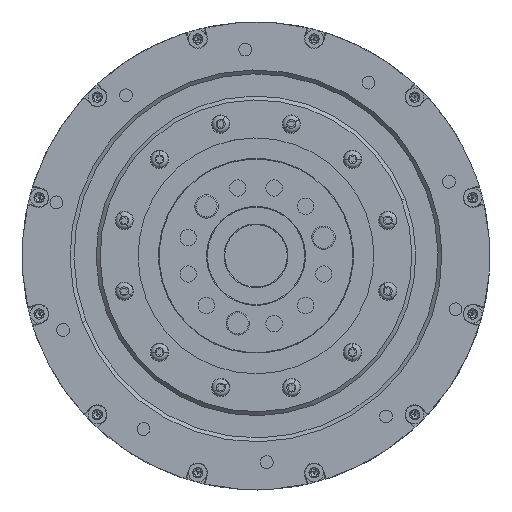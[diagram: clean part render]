
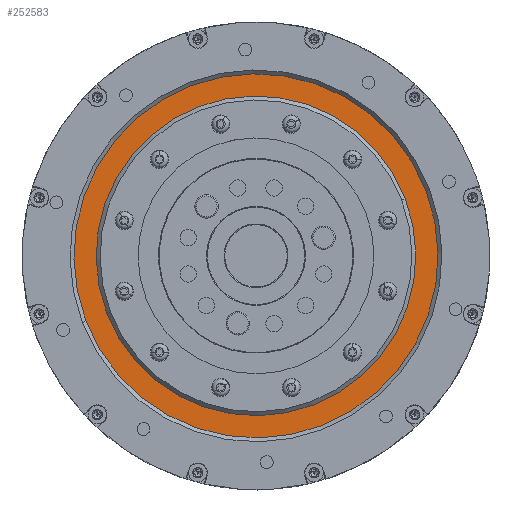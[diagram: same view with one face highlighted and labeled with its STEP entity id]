
A CAD part, top view. The second image highlights one B-rep face of the part: STEP entity #252583.
In plain terms, the highlighted planar face has unit normal (0, 0, 1).
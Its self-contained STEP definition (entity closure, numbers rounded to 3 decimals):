
#37715=CARTESIAN_POINT('',(0.,0.,24.));
#37716=DIRECTION('',(0.,0.,-1.));
#37717=DIRECTION('',(0.934,0.358,0.));
#37718=AXIS2_PLACEMENT_3D('',#37715,#37716,#37717);
#37720=CARTESIAN_POINT('',(0.,0.,24.));
#37721=DIRECTION('',(0.,0.,-1.));
#37722=DIRECTION('',(-0.934,-0.358,0.));
#37723=AXIS2_PLACEMENT_3D('',#37720,#37721,#37722);
#37725=CARTESIAN_POINT('',(0.,0.,24.));
#37726=DIRECTION('',(0.,0.,1.));
#37727=DIRECTION('',(-0.934,-0.358,0.));
#37728=AXIS2_PLACEMENT_3D('',#37725,#37726,#37727);
#37730=CARTESIAN_POINT('',(0.,0.,24.));
#37731=DIRECTION('',(0.,0.,1.));
#37732=DIRECTION('',(0.934,0.358,0.));
#37733=AXIS2_PLACEMENT_3D('',#37730,#37731,#37732);
#44458=CARTESIAN_POINT('',(43.598,16.736,24.));
#44459=CARTESIAN_POINT('',(-43.598,-16.736,24.));
#44460=VERTEX_POINT('',#44458);
#44461=VERTEX_POINT('',#44459);
#44466=CARTESIAN_POINT('',(-38.277,-14.693,24.));
#44467=CARTESIAN_POINT('',(38.277,14.693,24.));
#44468=VERTEX_POINT('',#44466);
#44469=VERTEX_POINT('',#44467);
#252567=CARTESIAN_POINT('',(0.,0.,24.));
#252568=DIRECTION('',(0.,0.,1.));
#252569=DIRECTION('',(0.934,0.358,0.));
#252570=AXIS2_PLACEMENT_3D('',#252567,#252568,#252569);
#252571=PLANE('',#252570);
#252572=ORIENTED_EDGE('',*,*,#252557,.T.);
#252574=ORIENTED_EDGE('',*,*,#252573,.T.);
#252575=EDGE_LOOP('',(#252572,#252574));
#252576=FACE_OUTER_BOUND('',#252575,.F.);
#252578=ORIENTED_EDGE('',*,*,#252577,.T.);
#252580=ORIENTED_EDGE('',*,*,#252579,.T.);
#252581=EDGE_LOOP('',(#252578,#252580));
#252582=FACE_BOUND('',#252581,.F.);
#252583=ADVANCED_FACE('',(#252576,#252582),#252571,.T.);
#37719=CIRCLE('',#37718,46.7);
#37724=CIRCLE('',#37723,46.7);
#37729=CIRCLE('',#37728,41.);
#37734=CIRCLE('',#37733,41.);
#252557=EDGE_CURVE('',#44460,#44461,#37719,.T.);
#252573=EDGE_CURVE('',#44461,#44460,#37724,.T.);
#252577=EDGE_CURVE('',#44468,#44469,#37729,.T.);
#252579=EDGE_CURVE('',#44469,#44468,#37734,.T.);
